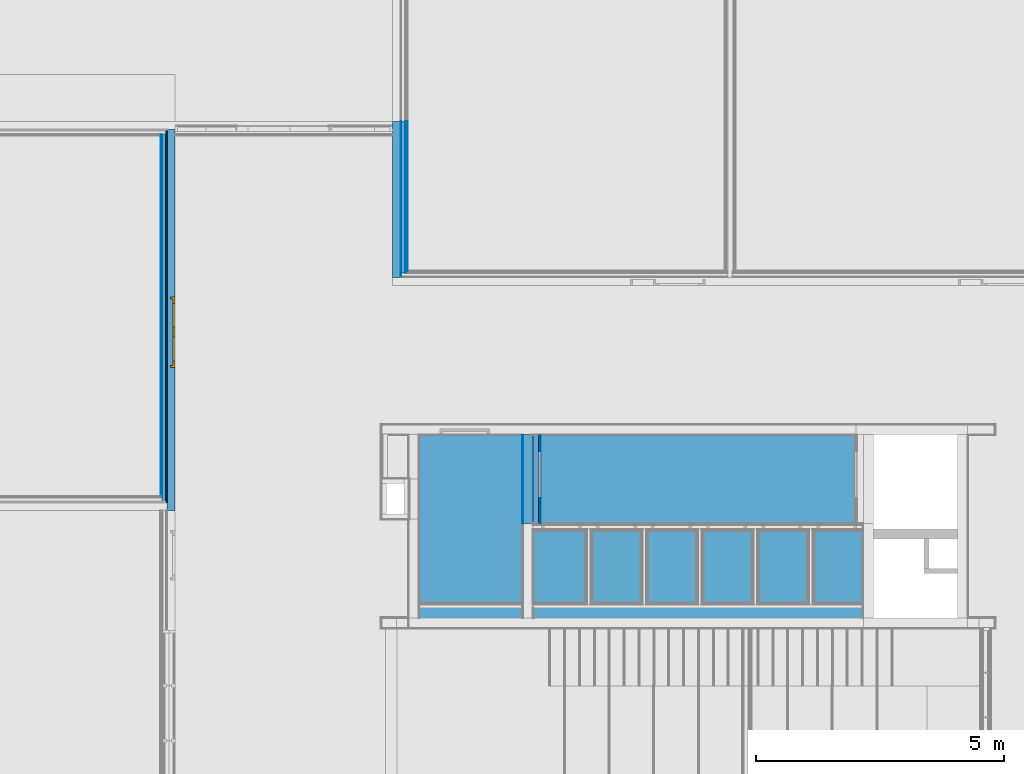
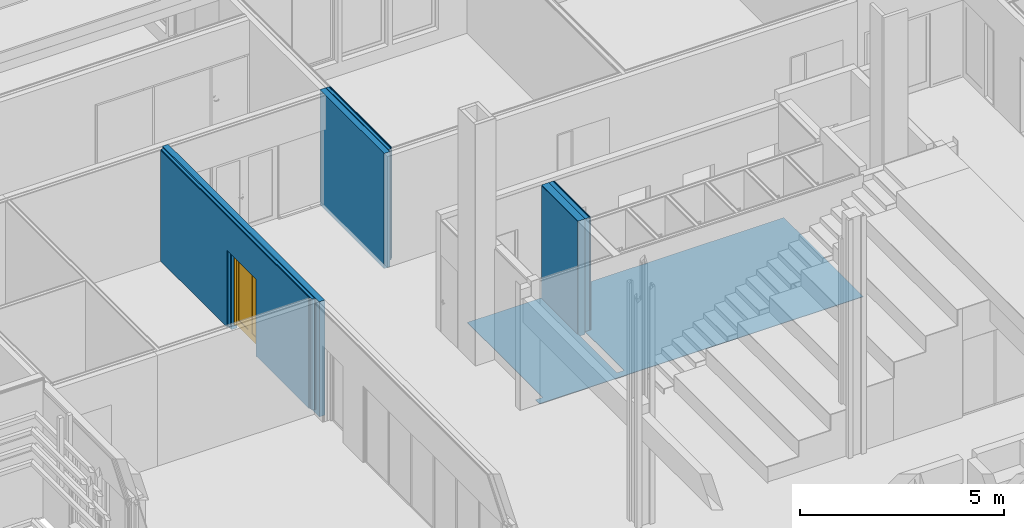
# One storey, part 99 of 139: 20 building element parts, 1 door, 3 openings, 4 elements without a shape of their own.
"""IFC2X3 building model written with IfcOpenShell, lengths in millimetres."""

from ifc_helpers import new_model, entity, si_unit, converted_unit, derived_unit, money_unit, direction, frame, origin_with_axes, place, context, subcontext, project, spatial, open_shell, faceted_brep, surface_model, material, type_object, element, fill, aggregate, save


model = new_model("IFC2X3")

# Units and contexts
model_context = context("Model", 3, precision=0.01, world=origin_with_axes(), true_north=direction((0.0, 1.0)))
body_context = subcontext(model_context, "Body", "Model", "MODEL_VIEW")
ifc_project = project(units=[si_unit("LENGTHUNIT", "METRE", prefix="MILLI"), si_unit("AREAUNIT", "SQUARE_METRE"), si_unit("VOLUMEUNIT", "CUBIC_METRE"), converted_unit("PLANEANGLEUNIT", "DEGREE", entity("IfcPlaneAngleMeasure", 0.0174532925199), si_unit("PLANEANGLEUNIT", "RADIAN"), dimensions=[0, 0, 0, 0, 0, 0, 0]), money_unit("EUR"), converted_unit("TIMEUNIT", "Year", entity("IfcTimeMeasure", 31556926.0), si_unit("TIMEUNIT", "SECOND"), dimensions=[0, 0, 1, 0, 0, 0, 0]), si_unit("MASSUNIT", "GRAM", prefix="KILO"), si_unit("THERMODYNAMICTEMPERATUREUNIT", "DEGREE_CELSIUS"), si_unit("LUMINOUSINTENSITYUNIT", "LUMEN"), si_unit("ENERGYUNIT", "JOULE", prefix="MEGA"), derived_unit("THERMALCONDUCTANCEUNIT", [(si_unit("POWERUNIT", "WATT"), 1), (si_unit("LENGTHUNIT", "METRE"), -1), (si_unit("THERMODYNAMICTEMPERATUREUNIT", "KELVIN"), -1)]), derived_unit("SPECIFICHEATCAPACITYUNIT", [(si_unit("ENERGYUNIT", "JOULE"), 1), (si_unit("MASSUNIT", "GRAM", prefix="KILO"), -1), (si_unit("THERMODYNAMICTEMPERATUREUNIT", "KELVIN"), -1)]), derived_unit("MASSDENSITYUNIT", [(si_unit("MASSUNIT", "GRAM", prefix="KILO"), 1), (si_unit("VOLUMEUNIT", "CUBIC_METRE"), -1)])], contexts=[model_context])

# Site, building, storey
site_placement = place(None, origin_with_axes())
site = spatial("IfcSite", under=ifc_project, at=site_placement, Name="Kolde pst 67a", CompositionType="ELEMENT")
building_placement = place(site_placement, origin_with_axes())
building = spatial("IfcBuilding", under=site, at=building_placement, Name="Riigigümnaasium", CompositionType="ELEMENT")
storey_placement = place(building_placement, frame((0.0, 0.0, 4600.0), z_axis=(0.0, 0.0, 1.0), x_axis=(1.0, 0.0, 0.0)))
storey = spatial("IfcBuildingStorey", under=building, at=storey_placement, Name="2. korrus", CompositionType="ELEMENT", Elevation=4600.0)

# Door
door_style = type_object("IfcDoorStyle", Name="Double Door 25", ConstructionType="NOTDEFINED", OperationType="DOUBLE_DOOR_SINGLE_SWING", ParameterTakesPrecedence=False, Sizeable=False)
wall_1_placement = place(storey_placement, frame((31890.0027771, 55889.9455556, -130.0), z_axis=(0.0, 0.0, 1.0), x_axis=(0.0, -1.0, 0.0)))
opening_1_placement = place(wall_1_placement, frame((4252.11605664, 0.0, 130.0), z_axis=(0.0, 0.0, 1.0), x_axis=(1.0, 0.0, 0.0)))
door_placement = place(opening_1_placement, frame((-710.0, 0.0, 0.0), z_axis=(0.0, 0.0, 1.0), x_axis=(1.0, 0.0, 0.0)))
door = element("IfcDoor", 1, at=door_placement, inside=storey, type_object=door_style, Name="Kahepoolne siseuks", ObjectType="DOOR", OverallHeight=2300.0, OverallWidth=1420.0, context=body_context, shape_type="SurfaceModel", body=[
    faceted_brep([(40.0, -40.0, 0.0), (40.0, -40.0, 2260.0), (40.0, -92.0, 2260.0), (40.0, -92.0, 0.0), (28.0, -40.0, 2260.0), (28.0, -40.0, 0.0), (28.0, 0.0, 2260.0), (0.0, 0.0, 2260.0), (0.0, -92.0, 2260.0), (0.0, -92.0, 0.0), (0.0, 0.0, 0.0), (28.0, 0.0, 0.0)], [[[0, 1, 2, 3]], [[4, 1, 0, 5]], [[4, 6, 7, 8, 2, 1]], [[3, 2, 8, 9]], [[5, 0, 3, 9, 10, 11]], [[6, 4, 5, 11]], [[6, 11, 10, 7]], [[10, 9, 8, 7]]]),
    faceted_brep([(1392.0, -40.0, 2260.0), (1380.0, -40.0, 2260.0), (1380.0, -92.0, 2260.0), (1420.0, -92.0, 2260.0), (1420.0, 0.0, 2260.0), (1392.0, 0.0, 2260.0), (1392.0, -40.0, 0.0), (1380.0, -40.0, 0.0), (1380.0, -92.0, 0.0), (1420.0, -92.0, 0.0), (1420.0, 0.0, 0.0), (1392.0, 0.0, 0.0)], [[[0, 1, 2, 3, 4, 5]], [[1, 0, 6, 7]], [[1, 7, 8, 2]], [[3, 2, 8, 9]], [[4, 3, 9, 10]], [[11, 5, 4, 10]], [[0, 5, 11, 6]], [[6, 11, 10, 9, 8, 7]]]),
    faceted_brep([(28.0, 0.0, 2272.0), (28.0, 0.0, 2260.0), (0.0, 0.0, 2260.0), (0.0, 0.0, 2300.0), (1420.0, 0.0, 2300.0), (1420.0, 0.0, 2260.0), (1392.0, 0.0, 2260.0), (1392.0, 0.0, 2272.0), (28.0, -40.0, 2272.0), (28.0, -40.0, 2260.0), (40.0, -40.0, 2260.0), (40.0, -92.0, 2260.0), (0.0, -92.0, 2260.0), (0.0, -92.0, 2300.0), (1420.0, -92.0, 2300.0), (1420.0, -92.0, 2260.0), (1392.0, -40.0, 2260.0), (1380.0, -92.0, 2260.0), (1380.0, -40.0, 2260.0), (1392.0, -40.0, 2272.0)], [[[0, 1, 2, 3, 4, 5, 6, 7]], [[1, 0, 8, 9]], [[9, 10, 11, 12, 2, 1]], [[2, 12, 13, 3]], [[3, 13, 14, 4]], [[4, 14, 15, 5]], [[16, 6, 5, 15, 17, 18]], [[7, 6, 16, 19]], [[0, 7, 19, 8]], [[16, 18, 10, 9, 8, 19]], [[10, 18, 17, 11]], [[17, 15, 14, 13, 12, 11]]]),
    faceted_brep([(1392.0, 0.0, 200.0), (1392.0, -40.0, 200.0), (1292.0, -40.0, 200.0), (1292.0, 0.0, 200.0), (1392.0, 0.0, 2172.0), (1392.0, -40.0, 2172.0), (1292.0, -40.0, 2172.0), (1292.0, 0.0, 2172.0)], [[[0, 1, 2, 3]], [[4, 5, 1, 0]], [[1, 5, 6, 2]], [[3, 2, 6, 7]], [[0, 3, 7, 4]], [[7, 6, 5, 4]]]),
    faceted_brep([(710.0, 0.0, 200.0), (710.0, -40.0, 200.0), (710.0, -40.0, 2172.0), (710.0, 0.0, 2172.0), (810.0, 0.0, 200.0), (810.0, -40.0, 200.0), (810.0, -40.0, 2172.0), (810.0, 0.0, 2172.0)], [[[0, 1, 2, 3]], [[4, 5, 1, 0]], [[1, 5, 6, 2]], [[3, 2, 6, 7]], [[0, 3, 7, 4]], [[7, 6, 5, 4]]]),
    faceted_brep([(1392.0, 0.0, 0.0), (1392.0, -40.0, 0.0), (710.0, -40.0, 0.0), (710.0, 0.0, 0.0), (1392.0, 0.0, 200.0), (1392.0, -40.0, 200.0), (1292.0, -40.0, 200.0), (810.0, -40.0, 200.0), (710.0, -40.0, 200.0), (710.0, 0.0, 200.0), (810.0, 0.0, 200.0), (1292.0, 0.0, 200.0)], [[[0, 1, 2, 3]], [[4, 5, 1, 0]], [[1, 5, 6, 7, 8, 2]], [[3, 2, 8, 9]], [[0, 3, 9, 10, 11, 4]], [[11, 6, 5, 4]], [[10, 7, 6, 11]], [[9, 8, 7, 10]]]),
    faceted_brep([(1392.0, 0.0, 2272.0), (1392.0, -40.0, 2272.0), (1392.0, -40.0, 2172.0), (1392.0, 0.0, 2172.0), (710.0, 0.0, 2272.0), (710.0, -40.0, 2272.0), (710.0, -40.0, 2172.0), (810.0, -40.0, 2172.0), (1292.0, -40.0, 2172.0), (1292.0, 0.0, 2172.0), (810.0, 0.0, 2172.0), (710.0, 0.0, 2172.0)], [[[0, 1, 2, 3]], [[4, 5, 1, 0]], [[1, 5, 6, 7, 8, 2]], [[3, 2, 8, 9]], [[0, 3, 9, 10, 11, 4]], [[11, 6, 5, 4]], [[10, 7, 6, 11]], [[9, 8, 7, 10]]]),
    surface_model("IfcShellBasedSurfaceModel", [(1292.0, -14.0, 200.0), (810.0, -14.0, 200.0), (810.0, -14.0, 2172.0), (1292.0, -14.0, 2172.0)], [open_shell([[[0, 1, 2, 3]]])]),
    surface_model("IfcShellBasedSurfaceModel", [(1292.0, -26.0, 200.0), (1292.0, -26.0, 2172.0), (810.0, -26.0, 2172.0), (810.0, -26.0, 200.0)], [open_shell([[[0, 1, 2, 3]]])]),
    faceted_brep([(28.0, 0.0, 200.0), (128.0, 0.0, 200.0), (128.0, -40.0, 200.0), (28.0, -40.0, 200.0), (28.0, 0.0, 2172.0), (128.0, 0.0, 2172.0), (128.0, -40.0, 2172.0), (28.0, -40.0, 2172.0)], [[[0, 1, 2, 3]], [[0, 4, 5, 1]], [[1, 5, 6, 2]], [[3, 2, 6, 7]], [[4, 0, 3, 7]], [[5, 4, 7, 6]]]),
    faceted_brep([(710.0, 0.0, 200.0), (710.0, 0.0, 2172.0), (710.0, -40.0, 2172.0), (710.0, -40.0, 200.0), (610.0, 0.0, 200.0), (610.0, 0.0, 2172.0), (610.0, -40.0, 2172.0), (610.0, -40.0, 200.0)], [[[0, 1, 2, 3]], [[0, 4, 5, 1]], [[1, 5, 6, 2]], [[3, 2, 6, 7]], [[4, 0, 3, 7]], [[5, 4, 7, 6]]]),
    faceted_brep([(28.0, 0.0, 0.0), (710.0, 0.0, 0.0), (710.0, -40.0, 0.0), (28.0, -40.0, 0.0), (28.0, 0.0, 200.0), (128.0, 0.0, 200.0), (610.0, 0.0, 200.0), (710.0, 0.0, 200.0), (710.0, -40.0, 200.0), (610.0, -40.0, 200.0), (128.0, -40.0, 200.0), (28.0, -40.0, 200.0)], [[[0, 1, 2, 3]], [[0, 4, 5, 6, 7, 1]], [[1, 7, 8, 2]], [[3, 2, 8, 9, 10, 11]], [[4, 0, 3, 11]], [[5, 4, 11, 10]], [[6, 5, 10, 9]], [[7, 6, 9, 8]]]),
    faceted_brep([(28.0, 0.0, 2272.0), (28.0, 0.0, 2172.0), (28.0, -40.0, 2172.0), (28.0, -40.0, 2272.0), (710.0, 0.0, 2272.0), (710.0, 0.0, 2172.0), (610.0, 0.0, 2172.0), (128.0, 0.0, 2172.0), (128.0, -40.0, 2172.0), (610.0, -40.0, 2172.0), (710.0, -40.0, 2172.0), (710.0, -40.0, 2272.0)], [[[0, 1, 2, 3]], [[0, 4, 5, 6, 7, 1]], [[1, 7, 8, 2]], [[3, 2, 8, 9, 10, 11]], [[4, 0, 3, 11]], [[5, 4, 11, 10]], [[6, 5, 10, 9]], [[7, 6, 9, 8]]]),
    surface_model("IfcShellBasedSurfaceModel", [(128.0, -14.0, 200.0), (128.0, -14.0, 2172.0), (610.0, -14.0, 2172.0), (610.0, -14.0, 200.0)], [open_shell([[[0, 1, 2, 3]]])]),
    surface_model("IfcShellBasedSurfaceModel", [(128.0, -26.0, 200.0), (610.0, -26.0, 200.0), (610.0, -26.0, 2172.0), (128.0, -26.0, 2172.0)], [open_shell([[[0, 1, 2, 3]]])]),
])

# Wall, opening
wall_type_1 = type_object("IfcWallType", Name="SS-CLT-16/5_vill75+värv 52 dB 292", PredefinedType="NOTDEFINED")
wall_1 = element("IfcWall", 2, at=wall_1_placement, inside=storey, type_object=wall_type_1, Name="Sisesein")
opening_1 = element("IfcOpeningElement", 3, at=opening_1_placement, cuts=wall_1, Name="Kahepoolne siseuks", context=body_context, shape_type="Brep", body=[
    faceted_brep([(710.0, -292.0, 2300.0), (710.0, -292.0, 0.0), (710.0, 584.0, 0.0), (710.0, 584.0, 2300.0), (-710.0, -292.0, 2300.0), (-710.0, -292.0, 0.0), (-710.0, 584.0, 0.0), (-710.0, 584.0, 2300.0)], [[[0, 1, 2, 3]], [[0, 4, 5, 1]], [[1, 5, 6, 2]], [[3, 2, 6, 7]], [[4, 0, 3, 7]], [[5, 4, 7, 6]]]),
])

fill(opening_1, door)

# Building element part
ifc_material_1 = material(Name="_KANDETARIND - CLT ristkihtliimpuit vastavalt EK osale, CLT paigaldusvuugid teibitakse ROTHOBLAAS teibiga")
building_element_part_1_placement = place(wall_1_placement, origin_with_axes())
building_element_part_1 = element("IfcBuildingElementPart", 4, at=building_element_part_1_placement, material=ifc_material_1, Name="_KANDETARIND - CLT ristkihtliimpuit vastavalt EK osale, CLT paigaldusvuugid teibitakse ROTHOBLAAS teibiga", context=body_context, shape_type="Brep", body=[
    faceted_brep([(4962.11605664, 2.31426255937e-06, 130.0), (4962.11605664, 0.0, 2430.0), (3542.11605664, 0.0, 2430.0), (3542.11605664, 2.31426255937e-06, 130.0), (3542.11605664, 2.31426255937e-06, 0.0), (160.001076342, 0.0, 0.0), (160.001076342, 0.0, 3450.0), (7849.96472481, 0.0, 3450.0), (7849.96472481, 0.0, 0.0), (4962.11605664, 2.31426255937e-06, 0.0), (4962.11605664, -160.0, 130.0), (4962.11605664, -160.0, 2430.0), (3542.11605664, -160.0, 2430.0), (3542.11605664, -160.0, 130.0), (3542.11605664, -160.0, 0.0), (160.000063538, -160.0, 0.0), (160.000063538, -160.0, 3450.0), (7849.96472481, -160.0, 3450.0), (7849.96472481, -160.0, 0.0), (4962.11605664, -160.0, 0.0)], [[[0, 1, 2, 3, 4, 5, 6, 7, 8, 9]], [[1, 0, 10, 11]], [[2, 1, 11, 12]], [[3, 2, 12, 13]], [[3, 13, 14, 4]], [[14, 15, 5, 4]], [[6, 5, 15, 16]], [[6, 16, 17, 7]], [[17, 18, 8, 7]], [[9, 8, 18, 19]], [[10, 0, 9, 19]], [[11, 10, 19, 18, 17, 16, 15, 14, 13, 12]]]),
])

ifc_material_2 = material(Name="_ÕHKVAHE")
building_element_part_2_placement = place(wall_1_placement, origin_with_axes())
building_element_part_2 = element("IfcBuildingElementPart", 5, at=building_element_part_2_placement, material=ifc_material_2, Name="_ÕHKVAHE", context=body_context, shape_type="Brep", body=[
    faceted_brep([(4962.11605664, -160.000043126, 130.0), (4962.11605664, -160.0, 2430.0), (3542.11605664, -160.0, 2430.0), (3542.11605664, -160.000043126, 130.0), (3542.11605664, -160.000019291, 127.0), (185.000063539, -160.0, 127.0), (185.000063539, -160.0, 3450.0), (7689.96472482, -160.000043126, 3450.0), (7689.96472567, -160.000043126, 127.0), (4962.11605664, -160.000027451, 127.0), (4962.11605664, -185.0, 130.0), (4962.11605664, -185.0, 2430.0), (3542.11605664, -185.0, 2430.0), (3542.11605664, -185.0, 130.0), (3542.11605664, -185.0, 127.0), (184.999905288, -185.0, 127.0), (184.999905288, -185.0, 3450.0), (7689.96472482, -185.0, 3450.0), (7689.96472567, -185.0, 127.0), (4962.11605664, -185.0, 127.0)], [[[0, 1, 2, 3, 4, 5, 6, 7, 8, 9]], [[1, 0, 10, 11]], [[2, 1, 11, 12]], [[3, 2, 12, 13]], [[3, 13, 14, 4]], [[14, 15, 5, 4]], [[6, 5, 15, 16]], [[6, 16, 17, 7]], [[17, 18, 8, 7]], [[9, 8, 18, 19]], [[10, 0, 9, 19]], [[11, 10, 19, 18, 17, 16, 15, 14, 13, 12]]]),
])

ifc_material_3 = material(Name="_KARKASS - metallkarkass CW 75/50/06 ja UW 75/40/06, samm 600, vahel mineraalvill, helineeldetegur αw = 1.0,  ISOVER ACOUSTIC 75mm või samaväärne")
building_element_part_3_placement = place(wall_1_placement, origin_with_axes())
building_element_part_3 = element("IfcBuildingElementPart", 6, at=building_element_part_3_placement, material=ifc_material_3, Name="_KARKASS - metallkarkass CW 75/50/06 ja UW 75/40/06, samm 600, vahel mineraalvill, helineeldetegur αw = 1.0,  ISOVER ACOUSTIC 75mm või samaväärne", context=body_context, shape_type="Brep", body=[
    faceted_brep([(4962.11605664, -185.0, 130.0), (4962.11605664, -185.0, 2430.0), (3542.11605664, -185.0, 2430.0), (3542.11605664, -185.0, 130.0), (3542.11605664, -185.0, 127.0), (259.99990529, -185.0, 127.0), (259.99990529, -185.0, 3450.0), (7664.9647248, -185.0, 3450.0), (7664.96472332, -185.0, 127.0), (4962.11605664, -185.0, 127.0), (4962.11605664, -260.0, 130.0), (4962.11605664, -260.0, 2430.0), (3542.11605664, -260.0, 2430.0), (3542.11605664, -260.0, 130.0), (3542.11605664, -260.0, 127.0), (259.999430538, -260.0, 127.0), (259.999430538, -260.0, 3450.0), (7664.9647248, -260.0, 3450.0), (7664.96472334, -260.0, 127.0), (4962.11605664, -260.0, 127.0)], [[[0, 1, 2, 3, 4, 5, 6, 7, 8, 9]], [[1, 0, 10, 11]], [[2, 1, 11, 12]], [[3, 2, 12, 13]], [[3, 13, 14, 4]], [[14, 15, 5, 4]], [[6, 5, 15, 16]], [[6, 16, 17, 7]], [[17, 18, 8, 7]], [[9, 8, 18, 19]], [[10, 0, 9, 19]], [[11, 10, 19, 18, 17, 16, 15, 14, 13, 12]]]),
])

ifc_material_4 = material(Name="_PLAATMATERJAL - tuletõkkekipsplaat, Knauf Red GKF või samaväärne")
building_element_part_4_placement = place(wall_1_placement, origin_with_axes())
building_element_part_4 = element("IfcBuildingElementPart", 7, at=building_element_part_4_placement, material=ifc_material_4, Name="_PLAATMATERJAL - tuletõkkekipsplaat, Knauf Red GKF või samaväärne", context=body_context, shape_type="Brep", body=[
    faceted_brep([(4962.11605664, -260.0, 130.0), (4962.11605664, -260.0, 2430.0), (3542.11605664, -260.0, 2430.0), (3542.11605664, -260.0, 130.0), (3542.11605664, -260.0, 127.0), (274.999430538, -260.0, 127.0), (274.999430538, -260.0, 3450.0), (7589.96472481, -260.0, 3450.0), (7589.96472464, -260.0, 127.0), (4962.11605664, -260.0, 127.0), (4962.11605664, -275.0, 130.0), (4962.11605664, -275.0, 2430.0), (3542.11605664, -275.0, 2430.0), (3542.11605664, -275.0, 130.0), (3542.11605664, -275.0, 127.0), (274.999335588, -275.0, 127.0), (274.999335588, -275.0, 3450.0), (7589.96472481, -275.0, 3450.0), (7589.96472464, -275.0, 127.0), (4962.11605664, -275.0, 127.0)], [[[0, 1, 2, 3, 4, 5, 6, 7, 8, 9]], [[1, 0, 10, 11]], [[2, 1, 11, 12]], [[3, 2, 12, 13]], [[3, 13, 14, 4]], [[14, 15, 5, 4]], [[6, 5, 15, 16]], [[6, 16, 17, 7]], [[17, 18, 8, 7]], [[9, 8, 18, 19]], [[10, 0, 9, 19]], [[11, 10, 19, 18, 17, 16, 15, 14, 13, 12]]]),
])

building_element_part_5_placement = place(wall_1_placement, origin_with_axes())
building_element_part_5 = element("IfcBuildingElementPart", 8, at=building_element_part_5_placement, material=ifc_material_4, Name="_PLAATMATERJAL - tuletõkkekipsplaat, Knauf Red GKF või samaväärne", context=body_context, shape_type="Brep", body=[
    faceted_brep([(4962.11605664, -275.000042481, 130.0), (4962.11605664, -275.0, 2430.0), (3542.11605664, -275.0, 2430.0), (3542.11605664, -275.000042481, 130.0), (3542.11605664, -275.000018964, 127.0), (289.999335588, -275.0, 127.0), (289.999335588, -275.0, 3450.0), (7574.96472481, -275.000042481, 3450.0), (7574.96472481, -275.000042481, 127.0), (4962.11605664, -275.000027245, 127.0), (4962.11605664, -290.0, 130.0), (4962.11605664, -290.0, 2430.0), (3542.11605664, -290.0, 2430.0), (3542.11605664, -290.0, 130.0), (3542.11605664, -290.0, 127.0), (289.999240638, -290.0, 127.0), (289.999240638, -290.0, 3450.0), (7574.96472481, -290.0, 3450.0), (7574.96472481, -290.0, 127.0), (4962.11605664, -290.0, 127.0)], [[[0, 1, 2, 3, 4, 5, 6, 7, 8, 9]], [[1, 0, 10, 11]], [[2, 1, 11, 12]], [[3, 2, 12, 13]], [[3, 13, 14, 4]], [[14, 15, 5, 4]], [[6, 5, 15, 16]], [[6, 16, 17, 7]], [[17, 18, 8, 7]], [[9, 8, 18, 19]], [[10, 0, 9, 19]], [[11, 10, 19, 18, 17, 16, 15, 14, 13, 12]]]),
])

ifc_material_5 = material(Name="_VIIMISTLUSKIHT - viimistlus vastavalt SA osale")
building_element_part_6_placement = place(wall_1_placement, origin_with_axes())
building_element_part_6 = element("IfcBuildingElementPart", 9, at=building_element_part_6_placement, material=ifc_material_5, Name="_VIIMISTLUSKIHT - viimistlus vastavalt SA osale", context=body_context, shape_type="Brep", body=[
    faceted_brep([(4962.11605664, -290.000027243, 130.0), (4962.11605664, -290.0, 2430.0), (3542.11605664, -290.0, 2430.0), (3542.11605664, -290.000018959, 130.0), (291.999240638, -290.0, 130.0), (291.999240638, -290.0, 3450.0), (7559.9647248, -290.000042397, 3450.0), (7559.96472349, -290.000042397, 130.0), (4962.11605664, -292.0, 130.0), (4962.11605664, -292.0, 2430.0), (3542.11605664, -292.0, 2430.0), (3542.11605664, -292.0, 130.0), (291.999227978, -292.0, 130.0), (291.999227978, -292.0, 3450.0), (7559.9647248, -292.0, 3450.0), (7559.96472349, -292.0, 130.0)], [[[0, 1, 2, 3, 4, 5, 6, 7]], [[1, 0, 8, 9]], [[2, 1, 9, 10]], [[3, 2, 10, 11]], [[3, 11, 12, 4]], [[5, 4, 12, 13]], [[5, 13, 14, 6]], [[14, 15, 7, 6]], [[8, 0, 7, 15]], [[9, 8, 15, 14, 13, 12, 11, 10]]]),
])

aggregate(wall_1, [building_element_part_1, building_element_part_2, building_element_part_3, building_element_part_4, building_element_part_5, building_element_part_6])

# Wall, building element parts
wall_type_2 = type_object("IfcWallType", Name="SS-CLT-16/1_vill75+krohv 52 dB 300", PredefinedType="NOTDEFINED")
wall_2_placement = place(storey_placement, frame((36439.99923, 55889.9149561, -130.0), z_axis=(0.0, 0.0, 1.0), x_axis=(0.0, -1.0, 0.0)))
wall_2 = element("IfcWall", 10, at=wall_2_placement, inside=storey, type_object=wall_type_2, Name="Sisesein")
building_element_part_7_placement = place(wall_2_placement, origin_with_axes())
building_element_part_7 = element("IfcBuildingElementPart", 11, at=building_element_part_7_placement, material=ifc_material_5, Name="_VIIMISTLUSKIHT - viimistlus vastavalt SA osale", context=body_context, shape_type="Brep", body=[
    faceted_brep([(0.0, 130.0, 3450.0), (0.0, 140.0, 3450.0), (0.0, 140.0, 130.0), (0.0, 130.0, 130.0), (3009.91477173, 140.0, 3450.0), (3009.91477173, 130.0, 3450.0), (3009.91477173, 140.0, 130.0), (3009.91477173, 130.0, 130.0)], [[[0, 1, 2, 3]], [[4, 1, 0, 5]], [[1, 4, 6, 2]], [[3, 2, 6, 7]], [[5, 0, 3, 7]], [[4, 5, 7, 6]]]),
])
building_element_part_8_placement = place(wall_2_placement, origin_with_axes())
building_element_part_8 = element("IfcBuildingElementPart", 12, at=building_element_part_8_placement, material=ifc_material_4, Name="_PLAATMATERJAL - tuletõkkekipsplaat, Knauf Red GKF või samaväärne", context=body_context, shape_type="Brep", body=[
    faceted_brep([(0.0, 115.0, 3450.0), (0.0, 130.0, 3450.0), (0.0, 130.0, 127.0), (0.0, 115.0, 127.0), (3019.91477173, 130.0, 3450.0), (3019.91477173, 115.0, 3450.0), (3019.91477173, 130.0, 127.0), (3019.91477173, 115.0, 127.0)], [[[0, 1, 2, 3]], [[4, 1, 0, 5]], [[1, 4, 6, 2]], [[3, 2, 6, 7]], [[5, 0, 3, 7]], [[4, 5, 7, 6]]]),
])
building_element_part_9_placement = place(wall_2_placement, origin_with_axes())
building_element_part_9 = element("IfcBuildingElementPart", 13, at=building_element_part_9_placement, material=ifc_material_4, Name="_PLAATMATERJAL - tuletõkkekipsplaat, Knauf Red GKF või samaväärne", context=body_context, shape_type="Brep", body=[
    faceted_brep([(0.0, 100.0, 3450.0), (0.0, 115.0, 3450.0), (0.0, 115.0, 127.0), (0.0, 100.0, 127.0), (3034.91477173, 115.0, 3450.0), (3034.91477173, 100.0, 3450.0), (3034.91477173, 115.0, 127.0), (3034.91477173, 100.0, 127.0)], [[[0, 1, 2, 3]], [[4, 1, 0, 5]], [[1, 4, 6, 2]], [[3, 2, 6, 7]], [[5, 0, 3, 7]], [[4, 5, 7, 6]]]),
])
ifc_material_6 = material(Name="_PLAATMATERJAL - OSB3 plaat")
building_element_part_10_placement = place(wall_2_placement, origin_with_axes())
building_element_part_10 = element("IfcBuildingElementPart", 14, at=building_element_part_10_placement, material=ifc_material_6, Name="_PLAATMATERJAL - OSB3 plaat", context=body_context, shape_type="Brep", body=[
    faceted_brep([(0.0, 90.0, 3450.0), (0.0, 100.0, 3450.0), (0.0, 100.0, 127.0), (0.0, 90.0, 127.0), (3049.91477173, 100.0, 3450.0), (3049.91477173, 90.0, 3450.0), (3049.91477173, 100.0, 127.0), (3049.91477173, 90.0, 127.0)], [[[0, 1, 2, 3]], [[4, 1, 0, 5]], [[1, 4, 6, 2]], [[3, 2, 6, 7]], [[5, 0, 3, 7]], [[4, 5, 7, 6]]]),
])
building_element_part_11_placement = place(wall_2_placement, origin_with_axes())
building_element_part_11 = element("IfcBuildingElementPart", 15, at=building_element_part_11_placement, material=ifc_material_3, Name="_KARKASS - metallkarkass CW 75/50/06 ja UW 75/40/06, samm 600, vahel mineraalvill, helineeldetegur αw = 1.0,  ISOVER ACOUSTIC 75mm või samaväärne", context=body_context, shape_type="Brep", body=[
    faceted_brep([(0.0, 15.0, 3450.0), (0.0, 90.0, 3450.0), (0.0, 90.0, 127.0), (0.0, 15.0, 127.0), (3059.91477173, 90.0, 3450.0), (3059.91477173, 15.0, 3450.0), (3059.91477173, 90.0, 127.0), (3059.91477173, 15.0, 127.0)], [[[0, 1, 2, 3]], [[4, 1, 0, 5]], [[1, 4, 6, 2]], [[3, 2, 6, 7]], [[5, 0, 3, 7]], [[4, 5, 7, 6]]]),
])
building_element_part_12_placement = place(wall_2_placement, origin_with_axes())
building_element_part_12 = element("IfcBuildingElementPart", 16, at=building_element_part_12_placement, material=ifc_material_2, Name="_ÕHKVAHE", context=body_context, shape_type="Brep", body=[
    faceted_brep([(0.0, 0.0, 3450.0), (0.0, 15.0, 3450.0), (0.0, 15.0, 127.0), (0.0, 0.0, 127.0), (3134.91477173, 15.0, 3450.0), (3134.91477173, 0.0, 3450.0), (3134.91477173, 15.0, 127.0), (3134.91477173, 0.0, 127.0)], [[[0, 1, 2, 3]], [[4, 1, 0, 5]], [[1, 4, 6, 2]], [[3, 2, 6, 7]], [[5, 0, 3, 7]], [[4, 5, 7, 6]]]),
])
building_element_part_13_placement = place(wall_2_placement, origin_with_axes())
building_element_part_13 = element("IfcBuildingElementPart", 17, at=building_element_part_13_placement, material=ifc_material_1, Name="_KANDETARIND - CLT ristkihtliimpuit vastavalt EK osale, CLT paigaldusvuugid teibitakse ROTHOBLAAS teibiga", context=body_context, shape_type="Brep", body=[
    faceted_brep([(0.0, -160.0, 3450.0), (0.0, 0.0, 3450.0), (0.0, 0.0, 0.0), (0.0, -160.0, 0.0), (3149.91477173, 0.0, 3450.0), (3149.91477173, -160.0, 3450.0), (3149.91477173, 0.0, 0.0), (3149.91477173, -160.0, 0.0)], [[[0, 1, 2, 3]], [[4, 1, 0, 5]], [[1, 4, 6, 2]], [[7, 3, 2, 6]], [[5, 0, 3, 7]], [[4, 5, 7, 6]]]),
])
aggregate(wall_2, [building_element_part_7, building_element_part_8, building_element_part_9, building_element_part_10, building_element_part_11, building_element_part_12, building_element_part_13])

# Slab, building element part
slab_type = type_object("IfcSlabType", Name="VL-RB-22/1 370", PredefinedType="NOTDEFINED")
slab_placement = place(storey_placement, frame((36604.99923, 45669.9999598, 0.0), z_axis=(0.0, 0.0, 1.0), x_axis=(1.0, 0.0, 0.0)))
slab = element("IfcSlab", 18, at=slab_placement, inside=storey, type_object=slab_type, Name="VAHELAGI", PredefinedType="NOTDEFINED")
building_element_part_14_placement = place(slab_placement, origin_with_axes())
building_element_part_14 = element("IfcBuildingElementPart", 19, at=building_element_part_14_placement, material=ifc_material_5, Name="_VIIMISTLUSKIHT - viimistlus vastavalt SA osale", context=body_context, shape_type="Brep", body=[
    faceted_brep([(2649.83128133, 3900.0, -15.0), (2649.83128133, 3900.0, 0.0), (9169.98623068, 3900.00004015, 0.0), (9169.98623068, 3900.00004015, -15.0), (2649.83128133, 3550.02760405, 0.0), (2649.83128133, 2108.50000096, -15.0), (2649.83128133, 2108.50000096, 0.0), (2649.83128133, 2650.02760405, 0.0), (2504.83128133, 2108.50000096, 0.0), (2504.83128133, 200.0, 0.0), (2304.83128133, 200.0, 0.0), (2304.83128133, 3900.0, 0.0), (200.0, 3900.0, 0.0), (200.0, 200.0, 0.0), (0.0, 200.0, 0.0), (0.0, 0.0, 0.0), (9169.98623068, 0.0, 0.0), (9169.98623068, 0.0, -15.0), (0.0, 0.0, -15.0), (0.0, 200.0, -15.0), (200.0, 200.0, -15.0), (200.0, 3900.0, -15.0), (2304.83128133, 3900.0, -15.0), (2304.83128133, 200.0, -15.0), (2504.83128133, 200.0, -15.0), (2504.83128133, 2108.50000096, -15.0)], [[[0, 1, 2, 3]], [[4, 1, 0, 5, 6, 7]], [[6, 8, 9, 10, 11, 12, 13, 14, 15, 16, 2, 1, 4, 7]], [[17, 3, 2, 16]], [[5, 0, 3, 17, 18, 19, 20, 21, 22, 23, 24, 25]], [[6, 5, 25, 8]], [[8, 25, 24, 9]], [[10, 9, 24, 23]], [[22, 11, 10, 23]], [[11, 22, 21, 12]], [[12, 21, 20, 13]], [[14, 13, 20, 19]], [[14, 19, 18, 15]], [[18, 17, 16, 15]]]),
])
aggregate(slab, [building_element_part_14])

# Wall, openings, building element parts
wall_type_3 = type_object("IfcWallType", Name="SS-RB-20/12_+2 plaat +kollektor 375", PredefinedType="NOTDEFINED")
wall_3_placement = place(storey_placement, frame((39109.8305113, 47778.4999608, -80.0), z_axis=(0.0, 0.0, 1.0), x_axis=(0.0, 1.0, 0.0)))
wall_3 = element("IfcWall", 20, at=wall_3_placement, inside=storey, type_object=wall_type_3, Name="Sisesein")
opening_2_placement = place(wall_3_placement, frame((-47778.4999608, 39109.8305113, -4520.0), z_axis=(0.0, 0.0, 1.0), x_axis=(0.0, -1.0, 0.0)))
element("IfcOpeningElement", 21, at=opening_2_placement, cuts=wall_3, Name="Tulekustuti nišš vastavalt SA osale", ObjectType="OPENING", context=body_context, shape_type="Brep", body=[
    faceted_brep([(39269.8305113, 49320.0, 5380.0), (39269.8305113, 49320.0, 6700.0), (39069.8305113, 49320.0, 6700.0), (39069.8305113, 49320.0, 5380.0), (39269.8305113, 49570.0, 5380.0), (39269.8305113, 49570.0, 6700.0), (39069.8305113, 49570.0, 6700.0), (39069.8305113, 49570.0, 5380.0)], [[[0, 1, 2, 3]], [[0, 4, 5, 1]], [[1, 5, 6, 2]], [[3, 2, 6, 7]], [[4, 0, 3, 7]], [[5, 4, 7, 6]]]),
])
opening_3_placement = place(wall_3_placement, frame((-47778.4999608, 39109.8305113, -4520.0), z_axis=(0.0, 0.0, 1.0), x_axis=(0.0, -1.0, 0.0)))
element("IfcOpeningElement", 22, at=opening_3_placement, cuts=wall_3, Name="Tulekustuti nišš vastavalt SA osale", ObjectType="OPENING", context=body_context, shape_type="Brep", body=[
    faceted_brep([(39269.8305113, 48320.0275639, 4600.0), (39269.8305113, 48320.0275639, 5500.0), (39109.8305113, 48320.0275639, 5500.0), (39109.8305113, 48320.0275639, 4600.0), (39269.8305113, 49220.0275639, 4600.0), (39269.8305113, 49220.0275639, 5500.0), (39109.8305113, 49220.0275639, 5500.0), (39109.8305113, 49220.0275639, 4600.0)], [[[0, 1, 2, 3]], [[0, 4, 5, 1]], [[1, 5, 6, 2]], [[3, 2, 6, 7]], [[4, 0, 3, 7]], [[5, 4, 7, 6]]]),
])
building_element_part_15_placement = place(wall_3_placement, origin_with_axes())
building_element_part_15 = element("IfcBuildingElementPart", 23, at=building_element_part_15_placement, material=ifc_material_5, Name="_VIIMISTLUSKIHT - viimistlus vastavalt SA osale", context=body_context, shape_type="Brep", body=[
    faceted_brep([(1776.49999905, 215.0, 3460.0), (1776.49999905, 200.0, 3460.0), (1776.49999905, 200.0, 80.0), (1776.49999905, 215.0, 80.0), (0.0, 200.0, 3460.0), (0.0, 215.0, 3460.0), (0.0, 200.0, 80.0), (0.0, 215.0, 80.0)], [[[0, 1, 2, 3]], [[4, 1, 0, 5]], [[1, 4, 6, 2]], [[3, 2, 6, 7]], [[5, 0, 3, 7]], [[4, 5, 7, 6]]]),
])
ifc_material_7 = material(Name="_KANDETARIND - monteeritav raudbetoon vastavalt EK osale")
building_element_part_16_placement = place(wall_3_placement, origin_with_axes())
building_element_part_16 = element("IfcBuildingElementPart", 24, at=building_element_part_16_placement, material=ifc_material_7, Name="_KANDETARIND - monteeritav raudbetoon vastavalt EK osale", context=body_context, shape_type="Brep", body=[
    faceted_brep([(1791.49999905, 200.0, 3460.0), (1791.49999905, 0.0, 3460.0), (1791.49999905, 0.0, 2180.0), (1791.49999905, 40.0, 2180.0), (1791.49999905, 40.0, 860.0), (1791.49999905, 0.0, 860.0), (1791.49999905, 0.0, 0.0), (1791.49999905, 200.0, 0.0), (0.0, 0.0, 3460.0), (0.0, 200.0, 3460.0), (0.0, 0.0, 0.0), (1541.5000392, 0.0, 860.0), (1541.5000392, 0.0, 2180.0), (1541.5000392, 40.0, 2180.0), (1541.5000392, 40.0, 860.0), (0.0, 200.0, 0.0)], [[[0, 1, 2, 3, 4, 5, 6, 7]], [[8, 1, 0, 9]], [[1, 8, 10, 6, 5, 11, 12, 2]], [[3, 2, 12, 13]], [[4, 3, 13, 14]], [[14, 11, 5, 4]], [[7, 6, 10, 15]], [[9, 0, 7, 15]], [[8, 9, 15, 10]], [[13, 12, 11, 14]]]),
])
ifc_material_8 = material(Name="_KARKASS - eriprofiilkinnitus vastavalt sisemisele plaatviimistlusele")
building_element_part_17_placement = place(wall_3_placement, origin_with_axes())
building_element_part_17 = element("IfcBuildingElementPart", 25, at=building_element_part_17_placement, material=ifc_material_8, Name="_KARKASS - eriprofiilkinnitus vastavalt sisemisele plaatviimistlusele", context=body_context, shape_type="Brep", body=[
    faceted_brep([(1791.49999905, 0.0, 2180.0), (1791.49999905, 0.0, 3460.0), (1791.49999905, -120.0, 3460.0), (1791.49999905, -120.0, 2180.0), (0.0, 0.0, 65.0), (0.0, 0.0, 3460.0), (1541.5000392, 0.0, 2180.0), (1541.5000392, 0.0, 860.0), (1791.49999905, 0.0, 860.0), (1791.49999905, 0.0, 77.0), (1776.49999905, 0.0, 77.0), (1776.50000184, 0.0, 65.0), (1441.5276031, 9.16600129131e-10, 980.0), (541.527603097, 9.16600129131e-10, 980.0), (541.527603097, 9.16600129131e-10, 80.0), (1441.5276031, 9.16600129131e-10, 80.0), (0.0, -120.0, 3460.0), (0.0, -120.0, 65.0), (1776.50000179, -120.0, 65.0), (1776.49999905, -120.0, 77.0), (1791.49999905, -120.0, 77.0), (1791.49999905, -120.0, 860.0), (1541.5000392, -120.0, 860.0), (1541.5000392, -120.0, 2180.0), (1441.5276031, -120.0, 980.0), (1441.5276031, -120.0, 80.0), (541.527603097, -120.0, 80.0), (541.527603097, -120.0, 980.0)], [[[0, 1, 2, 3]], [[4, 5, 1, 0, 6, 7, 8, 9, 10, 11], [12, 13, 14, 15]], [[5, 16, 2, 1]], [[3, 2, 16, 17, 18, 19, 20, 21, 22, 23], [24, 25, 26, 27]], [[6, 0, 3, 23]], [[17, 16, 5, 4]], [[7, 6, 23, 22]], [[8, 7, 22, 21]], [[21, 20, 9, 8]], [[10, 9, 20, 19]], [[19, 18, 11, 10]], [[4, 11, 18, 17]], [[13, 12, 24, 27]], [[14, 13, 27, 26]], [[15, 14, 26, 25]], [[12, 15, 25, 24]]]),
])
ifc_material_9 = material(Name="_PLAATMATERJAL - kipsplaat veekindel")
building_element_part_18_placement = place(wall_3_placement, origin_with_axes())
building_element_part_18 = element("IfcBuildingElementPart", 26, at=building_element_part_18_placement, material=ifc_material_9, Name="_PLAATMATERJAL - kipsplaat veekindel", context=body_context, shape_type="Brep", body=[
    faceted_brep([(1791.49999905, -132.5, 2180.0), (1791.49999905, -132.5, 3460.0), (0.0, -132.5, 3460.0), (0.0, -132.5, 65.0), (1776.50000179, -132.5, 65.0), (1776.49999905, -132.5, 77.0), (1791.49999905, -132.5, 77.0), (1791.49999905, -132.5, 860.0), (1541.5000392, -132.5, 860.0), (1541.5000392, -132.5, 2180.0), (541.499986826, -132.499994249, 80.0), (541.499986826, -132.499994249, 1580.0), (1441.50000496, -132.499994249, 1580.0), (1441.50000496, -132.499994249, 980.0), (1441.5276031, -132.5, 980.0), (1441.5276031, -132.5, 80.0), (541.527603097, -132.499994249, 80.0), (1791.49999905, -120.0, 2180.0), (1791.49999905, -120.0, 3460.0), (0.0, -120.0, 3460.0), (0.0, -120.0, 65.0), (1776.50000179, -120.0, 65.0), (1776.49999905, -120.0, 77.0), (1791.49999905, -120.0, 77.0), (1791.49999905, -120.0, 860.0), (1541.5000392, -120.0, 860.0), (1541.5000392, -120.0, 2180.0), (541.499986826, -119.999994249, 80.0), (541.499986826, -119.999994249, 1580.0), (1441.50000496, -119.999994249, 1580.0), (1441.50000496, -119.999994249, 980.0), (1441.5276031, -120.0, 980.0), (1441.5276031, -120.0, 80.0), (541.527603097, -119.999994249, 80.0)], [[[0, 1, 2, 3, 4, 5, 6, 7, 8, 9], [10, 11, 12, 13, 14, 15, 16]], [[17, 18, 1, 0]], [[19, 2, 1, 18]], [[3, 2, 19, 20]], [[20, 21, 4, 3]], [[5, 4, 21, 22]], [[22, 23, 6, 5]], [[7, 6, 23, 24]], [[24, 25, 8, 7]], [[25, 26, 9, 8]], [[26, 17, 0, 9]], [[11, 10, 27, 28]], [[12, 11, 28, 29]], [[13, 12, 29, 30]], [[13, 30, 31, 14]], [[31, 32, 15, 14]], [[33, 16, 15, 32]], [[10, 16, 33, 27]], [[20, 19, 18, 17, 26, 25, 24, 23, 22, 21], [27, 33, 32, 31, 30, 29, 28]]]),
])
building_element_part_19_placement = place(wall_3_placement, origin_with_axes())
building_element_part_19 = element("IfcBuildingElementPart", 27, at=building_element_part_19_placement, material=ifc_material_9, Name="_PLAATMATERJAL - kipsplaat veekindel", context=body_context, shape_type="Brep", body=[
    faceted_brep([(1791.49999905, -145.0, 2180.0), (1791.49999905, -145.0, 3460.0), (0.0, -145.0, 3460.0), (0.0, -145.0, 65.0), (1776.50000178, -145.0, 65.0), (1776.49999905, -145.0, 77.0), (1791.49999905, -145.0, 77.0), (1791.49999905, -145.0, 860.0), (1541.5000392, -145.0, 860.0), (1541.5000392, -145.0, 2180.0), (541.499986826, -144.999994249, 80.0), (541.499986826, -144.999994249, 1580.0), (1441.50000496, -144.999994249, 1580.0), (1441.50000496, -144.999994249, 980.0), (1441.5276031, -145.0, 980.0), (1441.5276031, -145.0, 80.0), (541.527603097, -144.999994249, 80.0), (1791.49999905, -132.5, 2180.0), (1791.49999905, -132.5, 3460.0), (0.0, -132.5, 3460.0), (0.0, -132.5, 65.0), (1776.50000179, -132.5, 65.0), (1776.49999905, -132.5, 77.0), (1791.49999905, -132.5, 77.0), (1791.49999905, -132.5, 860.0), (1541.5000392, -132.5, 860.0), (1541.5000392, -132.5, 2180.0), (541.499986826, -132.499994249, 80.0), (541.499986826, -132.499994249, 1580.0), (1441.50000496, -132.499994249, 1580.0), (1441.50000496, -132.499994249, 980.0), (1441.5276031, -132.5, 980.0), (1441.5276031, -132.5, 80.0), (541.527603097, -132.499994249, 80.0)], [[[0, 1, 2, 3, 4, 5, 6, 7, 8, 9], [10, 11, 12, 13, 14, 15, 16]], [[17, 18, 1, 0]], [[19, 2, 1, 18]], [[3, 2, 19, 20]], [[20, 21, 4, 3]], [[5, 4, 21, 22]], [[22, 23, 6, 5]], [[7, 6, 23, 24]], [[24, 25, 8, 7]], [[25, 26, 9, 8]], [[26, 17, 0, 9]], [[11, 10, 27, 28]], [[12, 11, 28, 29]], [[13, 12, 29, 30]], [[13, 30, 31, 14]], [[31, 32, 15, 14]], [[33, 16, 15, 32]], [[10, 16, 33, 27]], [[20, 19, 18, 17, 26, 25, 24, 23, 22, 21], [27, 33, 32, 31, 30, 29, 28]]]),
])
building_element_part_20_placement = place(wall_3_placement, origin_with_axes())
building_element_part_20 = element("IfcBuildingElementPart", 28, at=building_element_part_20_placement, material=ifc_material_5, Name="_VIIMISTLUSKIHT - viimistlus vastavalt SA osale", context=body_context, shape_type="Brep", body=[
    faceted_brep([(541.499986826, -159.999994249, 80.0), (541.499986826, -159.999994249, 1580.0), (1441.50000496, -159.999994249, 1580.0), (1441.50000496, -159.999994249, 980.0), (1441.5276031, -159.999999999, 980.0), (1441.5276031, -159.999999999, 80.0), (1776.49999905, -160.0, 80.0), (1776.49999905, -160.0, 860.0), (1541.5000392, -160.0, 860.0), (1541.5000392, -160.0, 2180.0), (1776.49999905, -160.0, 2180.0), (1776.49999905, -160.0, 3460.0), (0.0, -160.0, 3460.0), (0.0, -160.0, 80.0), (541.499986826, -144.999994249, 80.0), (541.499986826, -144.999994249, 1580.0), (1441.50000496, -144.999994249, 1580.0), (1441.50000496, -144.999994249, 980.0), (1441.5276031, -145.0, 980.0), (1441.5276031, -145.0, 80.0), (1776.49999905, -145.0, 80.0), (1776.49999905, -145.0, 860.0), (1541.5000392, -145.0, 860.0), (1541.5000392, -145.0, 2180.0), (1776.49999905, -145.0, 2180.0), (1776.49999905, -145.0, 3460.0), (0.0, -145.0, 3460.0), (0.0, -145.0, 80.0)], [[[0, 1, 2, 3, 4, 5, 6, 7, 8, 9, 10, 11, 12, 13]], [[1, 0, 14, 15]], [[2, 1, 15, 16]], [[3, 2, 16, 17]], [[3, 17, 18, 4]], [[4, 18, 19, 5]], [[5, 19, 20, 6]], [[21, 7, 6, 20]], [[7, 21, 22, 8]], [[8, 22, 23, 9]], [[9, 23, 24, 10]], [[10, 24, 25, 11]], [[25, 26, 12, 11]], [[27, 13, 12, 26]], [[14, 0, 13, 27]], [[15, 14, 27, 26, 25, 24, 23, 22, 21, 20, 19, 18, 17, 16]]]),
])
aggregate(wall_3, [building_element_part_15, building_element_part_16, building_element_part_17, building_element_part_18, building_element_part_19, building_element_part_20])

save(model, "model.ifc")
